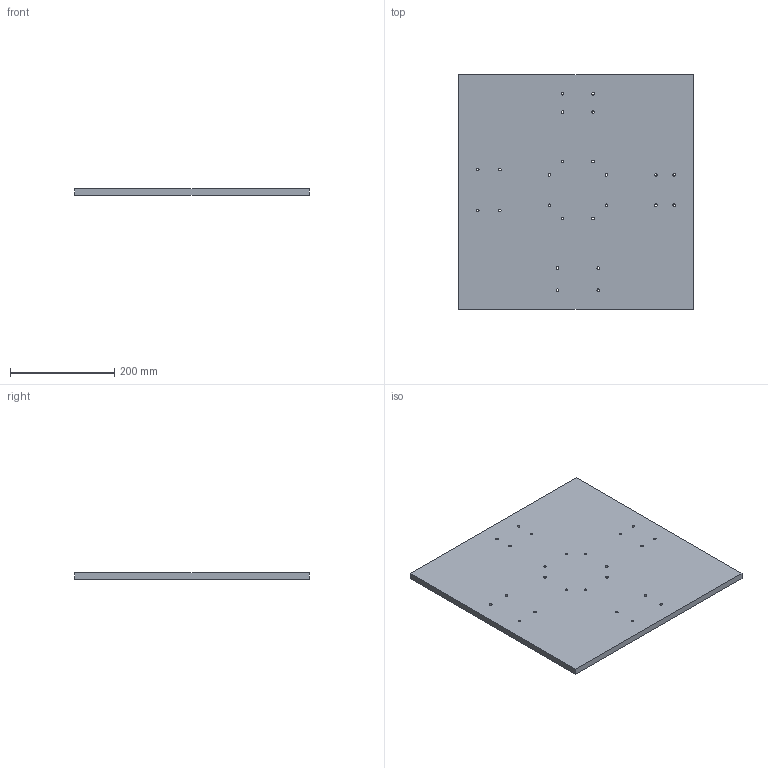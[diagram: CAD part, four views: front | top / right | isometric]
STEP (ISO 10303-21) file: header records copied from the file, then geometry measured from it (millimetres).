
FILE_DESCRIPTION(('CATIA V5 STEP Exchange'),'2;1');
FILE_NAME('C:\Users\user\Documents\Jakob\BAC - Arbeit 1\CAD Modell\CAD-Modell-Step files\Base\Base_topplate.stp','2018-12-13T14:13:19+00:00',('none'),('none'),'Version 5-6 Release 2012','CATIA V5 STEP AP203','none');
FILE_SCHEMA(('CONFIG_CONTROL_DESIGN'));
Length unit declared in the file: millimetre
Products named in the file (1): Base_topplate
Bounding box: 450 x 450 x 12 mm (x, y, z)
Volume: 2424345.1 mm3; surface area: 430181.4 mm2
Topology: 1 solids, 1 shells, 54 faces, 156 edges, 104 vertices
Faces by surface type: cylinder 48, plane 6
Entity records: 1758 total; most frequent: ORIENTED_EDGE 312, CARTESIAN_POINT 291, DIRECTION 216, EDGE_CURVE 156, AXIS2_PLACEMENT_3D 127, VERTEX_POINT 104, EDGE_LOOP 102, CIRCLE 96
